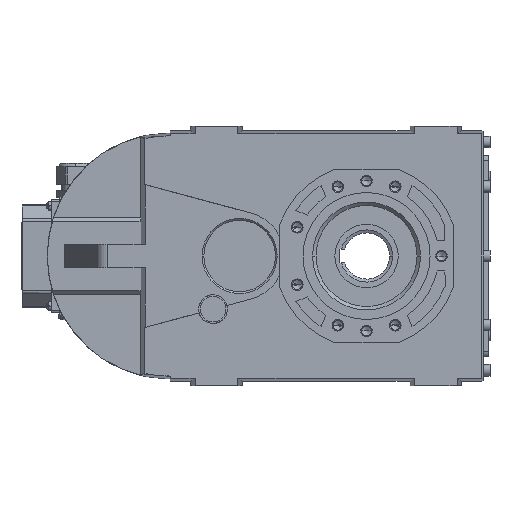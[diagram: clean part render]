
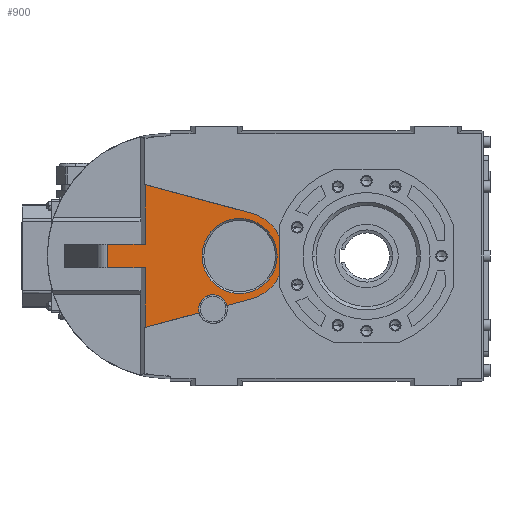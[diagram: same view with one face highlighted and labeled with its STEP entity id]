
A CAD part, left-side view. The second image highlights one B-rep face of the part: STEP entity #900.
In plain terms, the highlighted planar face has unit normal (-1, 0, 0).
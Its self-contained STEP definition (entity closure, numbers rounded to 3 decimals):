
#900 = ADVANCED_FACE( '', ( #3733, #3734 ), #3735, .T. );
#3733 = FACE_OUTER_BOUND( '', #8796, .T. );
#3734 = FACE_BOUND( '', #8797, .T. );
#3735 = PLANE( '', #8798 );
#8796 = EDGE_LOOP( '', ( #15809, #15810, #15811, #15812, #15813, #15814, #15815, #15816, #15817, #15818, #15819, #15820, #15821 ) );
#8797 = EDGE_LOOP( '', ( #15822, #15823 ) );
#8798 = AXIS2_PLACEMENT_3D( '', #15824, #15825, #15826 );
#15809 = ORIENTED_EDGE( '', *, *, #34192, .T. );
#15810 = ORIENTED_EDGE( '', *, *, #34352, .F. );
#15811 = ORIENTED_EDGE( '', *, *, #34353, .F. );
#15812 = ORIENTED_EDGE( '', *, *, #34339, .T. );
#15813 = ORIENTED_EDGE( '', *, *, #34333, .T. );
#15814 = ORIENTED_EDGE( '', *, *, #34328, .F. );
#15815 = ORIENTED_EDGE( '', *, *, #34322, .F. );
#15816 = ORIENTED_EDGE( '', *, *, #34349, .T. );
#15817 = ORIENTED_EDGE( '', *, *, #34317, .F. );
#15818 = ORIENTED_EDGE( '', *, *, #34314, .T. );
#15819 = ORIENTED_EDGE( '', *, *, #33486, .T. );
#15820 = ORIENTED_EDGE( '', *, *, #34354, .F. );
#15821 = ORIENTED_EDGE( '', *, *, #34274, .F. );
#15822 = ORIENTED_EDGE( '', *, *, #33507, .T. );
#15823 = ORIENTED_EDGE( '', *, *, #34306, .T. );
#15824 = CARTESIAN_POINT( '', ( 3., 0., 0. ) );
#15825 = DIRECTION( '', ( -1., 0., 0. ) );
#15826 = DIRECTION( '', ( 0., 0., 1. ) );
#33486 = EDGE_CURVE( '', #40017, #40025, #40027, .T. );
#33507 = EDGE_CURVE( '', #40063, #40067, #40069, .T. );
#34192 = EDGE_CURVE( '', #41205, #41202, #41206, .T. );
#34274 = EDGE_CURVE( '', #41205, #41341, #41342, .T. );
#34306 = EDGE_CURVE( '', #40067, #40063, #41401, .T. );
#34314 = EDGE_CURVE( '', #41409, #40017, #41410, .T. );
#34317 = EDGE_CURVE( '', #41409, #41413, #41414, .T. );
#34322 = EDGE_CURVE( '', #41418, #41421, #41422, .T. );
#34328 = EDGE_CURVE( '', #41421, #41428, #41432, .T. );
#34333 = EDGE_CURVE( '', #41437, #41428, #41440, .T. );
#34339 = EDGE_CURVE( '', #41449, #41437, #41450, .T. );
#34349 = EDGE_CURVE( '', #41418, #41413, #41464, .T. );
#34352 = EDGE_CURVE( '', #41467, #41202, #41468, .T. );
#34353 = EDGE_CURVE( '', #41449, #41467, #41469, .T. );
#34354 = EDGE_CURVE( '', #41341, #40025, #41470, .T. );
#40017 = VERTEX_POINT( '', #50810 );
#40025 = VERTEX_POINT( '', #50820 );
#40027 = CIRCLE( '', #50823, 12.5 );
#40063 = VERTEX_POINT( '', #50867 );
#40067 = VERTEX_POINT( '', #50872 );
#40069 = CIRCLE( '', #50875, 32.5 );
#41202 = VERTEX_POINT( '', #52537 );
#41205 = VERTEX_POINT( '', #52541 );
#41206 = LINE( '', #52542, #52543 );
#41341 = VERTEX_POINT( '', #52734 );
#41342 = CIRCLE( '', #52735, 38.5 );
#41401 = CIRCLE( '', #52821, 32.5 );
#41409 = VERTEX_POINT( '', #52829 );
#41410 = CIRCLE( '', #52830, 12.5 );
#41413 = VERTEX_POINT( '', #52834 );
#41414 = LINE( '', #52835, #52836 );
#41418 = VERTEX_POINT( '', #52841 );
#41421 = VERTEX_POINT( '', #52845 );
#41422 = LINE( '', #52846, #52847 );
#41428 = VERTEX_POINT( '', #52855 );
#41432 = LINE( '', #52860, #52861 );
#41437 = VERTEX_POINT( '', #52868 );
#41440 = LINE( '', #52873, #52874 );
#41449 = VERTEX_POINT( '', #52887 );
#41450 = LINE( '', #52888, #52889 );
#41464 = LINE( '', #52910, #52911 );
#41467 = VERTEX_POINT( '', #52915 );
#41468 = CIRCLE( '', #52916, 38.5 );
#41469 = LINE( '', #52917, #52918 );
#41470 = LINE( '', #52919, #52920 );
#50810 = CARTESIAN_POINT( '', ( 3., 145.5, -46. ) );
#50820 = CARTESIAN_POINT( '', ( 3., 120.921, -42.784 ) );
#50823 = AXIS2_PLACEMENT_3D( '', #67800, #67801, #67802 );
#50867 = CARTESIAN_POINT( '', ( 3., 142.5, 0. ) );
#50872 = CARTESIAN_POINT( '', ( 3., 77.5, 0. ) );
#50875 = AXIS2_PLACEMENT_3D( '', #67843, #67844, #67845 );
#52537 = CARTESIAN_POINT( '', ( 3., 75.1, 16.255 ) );
#52541 = CARTESIAN_POINT( '', ( 3., 75.1, -16.255 ) );
#52542 = CARTESIAN_POINT( '', ( 3., 75.1, -13.784 ) );
#52543 = VECTOR( '', #68979, 1. );
#52734 = CARTESIAN_POINT( '', ( 3., 100.035, -37.188 ) );
#52735 = AXIS2_PLACEMENT_3D( '', #69111, #69112, #69113 );
#52821 = AXIS2_PLACEMENT_3D( '', #69153, #69154, #69155 );
#52829 = CARTESIAN_POINT( '', ( 3., 145.069, -49.255 ) );
#52830 = AXIS2_PLACEMENT_3D( '', #69177, #69178, #69179 );
#52834 = CARTESIAN_POINT( '', ( 3., 191.843, -61.788 ) );
#52835 = CARTESIAN_POINT( '', ( 3., 192., -61.83 ) );
#52836 = VECTOR( '', #69184, 1. );
#52841 = CARTESIAN_POINT( '', ( 3., 191.843, -10. ) );
#52845 = CARTESIAN_POINT( '', ( 3., 224.425, -10. ) );
#52846 = CARTESIAN_POINT( '', ( 3., 191.84, -10. ) );
#52847 = VECTOR( '', #69193, 1. );
#52855 = CARTESIAN_POINT( '', ( 3., 224.425, 10. ) );
#52860 = CARTESIAN_POINT( '', ( 3., 224.425, -10. ) );
#52861 = VECTOR( '', #69203, 1. );
#52868 = CARTESIAN_POINT( '', ( 3., 191.843, 10. ) );
#52873 = CARTESIAN_POINT( '', ( 3., 191.84, 10. ) );
#52874 = VECTOR( '', #69208, 1. );
#52887 = CARTESIAN_POINT( '', ( 3., 191.843, 61.788 ) );
#52888 = CARTESIAN_POINT( '', ( 3., 191.843, -60. ) );
#52889 = VECTOR( '', #69216, 1. );
#52910 = CARTESIAN_POINT( '', ( 3., 191.843, -60. ) );
#52911 = VECTOR( '', #69230, 1. );
#52915 = CARTESIAN_POINT( '', ( 3., 100.035, 37.188 ) );
#52916 = AXIS2_PLACEMENT_3D( '', #69235, #69236, #69237 );
#52917 = CARTESIAN_POINT( '', ( 3., 100.035, 37.188 ) );
#52918 = VECTOR( '', #69238, 1. );
#52919 = CARTESIAN_POINT( '', ( 3., 192., -61.83 ) );
#52920 = VECTOR( '', #69239, 1. );
#67800 = CARTESIAN_POINT( '', ( 3., 133., -46. ) );
#67801 = DIRECTION( '', ( 1., 0., 0. ) );
#67802 = DIRECTION( '', ( 0., 1., 0. ) );
#67843 = CARTESIAN_POINT( '', ( 3., 110., 0. ) );
#67844 = DIRECTION( '', ( 1., 0., 0. ) );
#67845 = DIRECTION( '', ( 0., 1., 0. ) );
#68979 = DIRECTION( '', ( 0., 0., 1. ) );
#69111 = CARTESIAN_POINT( '', ( 3., 110., 0. ) );
#69112 = DIRECTION( '', ( 1., 0., 0. ) );
#69113 = DIRECTION( '', ( 0., -0.259, -0.966 ) );
#69153 = CARTESIAN_POINT( '', ( 3., 110., 0. ) );
#69154 = DIRECTION( '', ( 1., 0., 0. ) );
#69155 = DIRECTION( '', ( 0., 1., 0. ) );
#69177 = CARTESIAN_POINT( '', ( 3., 133., -46. ) );
#69178 = DIRECTION( '', ( 1., 0., 0. ) );
#69179 = DIRECTION( '', ( 0., 1., 0. ) );
#69184 = DIRECTION( '', ( 0., 0.966, -0.259 ) );
#69193 = DIRECTION( '', ( 0., 1., 0. ) );
#69203 = DIRECTION( '', ( 0., 0., 1. ) );
#69208 = DIRECTION( '', ( 0., 1., 0. ) );
#69216 = DIRECTION( '', ( 0., 0., -1. ) );
#69230 = DIRECTION( '', ( 0., 0., -1. ) );
#69235 = CARTESIAN_POINT( '', ( 3., 110., 0. ) );
#69236 = DIRECTION( '', ( 1., 0., 0. ) );
#69237 = DIRECTION( '', ( 0., -0.259, -0.966 ) );
#69238 = DIRECTION( '', ( 0., -0.966, -0.259 ) );
#69239 = DIRECTION( '', ( 0., 0.966, -0.259 ) );
